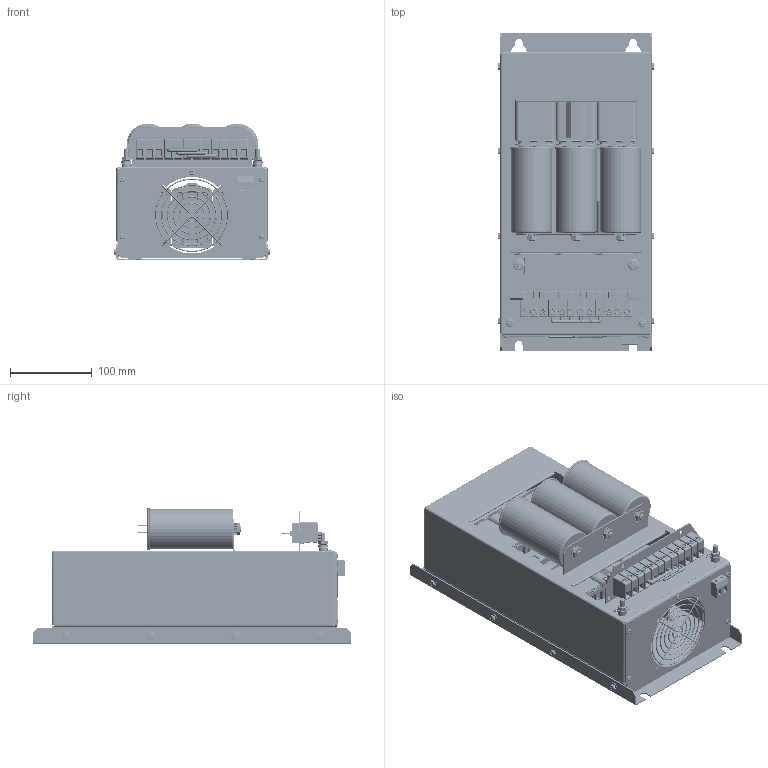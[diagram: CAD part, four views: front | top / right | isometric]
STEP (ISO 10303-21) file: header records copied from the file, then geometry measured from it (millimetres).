
FILE_DESCRIPTION(/* description */ (''),/* implementation_level */ '2;1');
FILE_NAME(/* name */ 'C:\Users\Erika.Jenzer\OneDrive - Schaffner EMV AG\Desktop\Plutus Customer STEP\CUSTOMER IP00 FS A.stp',/* time_stamp */ '2023-05-12T08:25:54+02:00',/* author */ ('erika.jenzer'),/* organization */ (''),/* preprocessor_version */ 'ST-DEVELOPER v18.1',/* originating_system */ 'Autodesk Inventor 2020',/* authorisation */ '');
FILE_SCHEMA (('AUTOMOTIVE_DESIGN { 1 0 10303 214 3 1 1 }'));
Products named in the file (1): CUSTOMER IP00 FS A
Bounding box: 192.14 x 390 x 167.75 mm (x, y, z)
Volume: 3094016.5 mm3; surface area: 841015.8 mm2
Topology: 10 solids, 10 shells, 8940 faces, 21896 edges, 13317 vertices
Faces by surface type: plane 3619, cylinder 3390, torus 1091, bspline 405, cone 279, sphere 156
Full cylindrical faces by diameter (mm): 1 x14, 1.6 x12, 2 x5, 2.8 x2, 3.242 x3, 3.4 x5, 4 x15, 4.3 x4, 4.5 x12, 5 x16, 5.2 x5, 5.5 x17, 6 x18, 6.4 x2, 6.5 x9, 7 x4, 7.475 x4, 7.9 x3, 8 x8, 8.4 x3, 8.5 x12, 8.7 x6, 8.88 x2, 9 x4, 9.9 x2, 11.05 x2, 11.9 x6, 12 x10, 14.2 x4, 14.7 x6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
Entity records: 288806 total; most frequent: CARTESIAN_POINT 68478, DIRECTION 46354, ORIENTED_EDGE 43680, EDGE_CURVE 21840, AXIS2_PLACEMENT_3D 17098, VERTEX_POINT 13345, LINE 12158, VECTOR 12158
